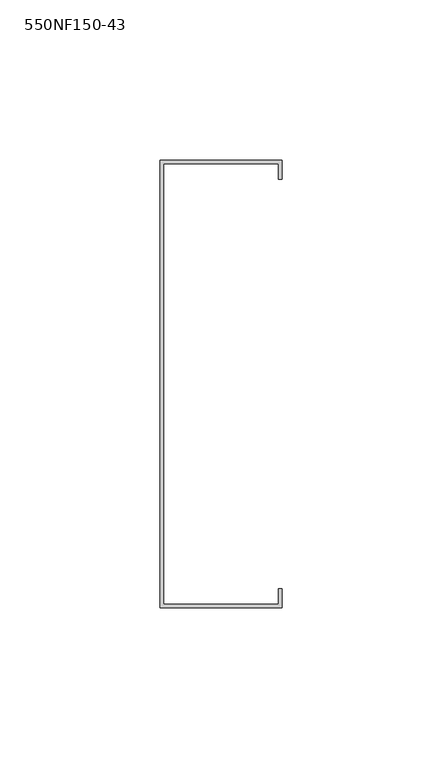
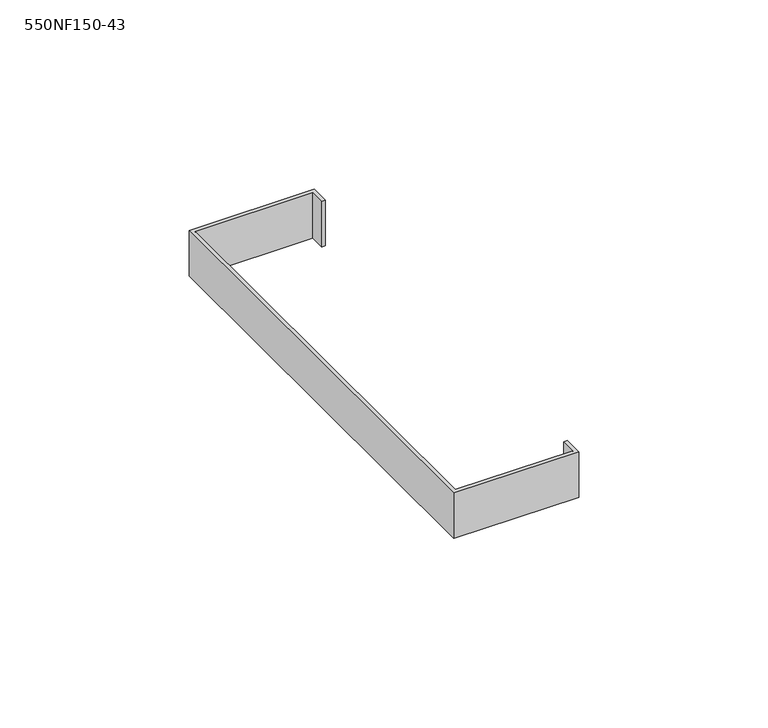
"""IFC4 building model written with IfcOpenShell, lengths in millimetres: column geometry, BIMSF-SSMA-S-Column : 550NF150-43."""

from ifc_helpers import new_model, si_unit, frame, origin, place, context, project, spatial, polyline, outline, extrude, source, transform, mapped, element, save


def column_550nf150_43_2e02f915(model_context):
    return source(origin(), model_context, "Body", "SweptSolid", [
        extrude(outline(polyline([(-11.9977877, -80.5871249), (-11.9977877, 59.1128751), (26.1022123, 59.1128751), (26.1022123, 53.1879908), (24.952528, 53.1879908), (24.952528, 57.9631908), (-10.8481035, 57.9631908), (-10.8481035, -79.4374407), (24.952528, -79.4374407), (24.952528, -74.6622407), (26.1022123, -74.6622407), (26.1022123, -80.5871249), (-11.9977877, -80.5871249)])), frame((0.0, 0.0, 5525.3929688), z_axis=(0.0, 0.0, 1.0), x_axis=(1.0, 0.0, 0.0)), (0.0, 0.0, 1.0), 14.6671124),
    ])


if __name__ == "__main__":
    model = new_model("IFC4")
    model_context = context("Model", 3, world=origin())
    ifc_project = project(units=[si_unit("LENGTHUNIT", "METRE", prefix="MILLI")], contexts=[model_context])
    site = spatial("IfcSite", under=ifc_project)
    building = spatial("IfcBuilding", under=site)
    placement = place(None, origin())
    column_550nf150_43_shape = column_550nf150_43_2e02f915(model_context)
    element("IfcColumn", 1, ObjectType="BIMSF-SSMA-S-Column : 550NF150-43", at=placement, inside=building, context=model_context, shape_type="MappedRepresentation", body=[
        mapped(column_550nf150_43_shape, transform((0.0, 0.0, 0.0), x_axis=(1.0, 0.0, 0.0), y_axis=(0.0, 1.0, 0.0), z_axis=(0.0, 0.0, 1.0))),
    ])
    save(model, "model.ifc")
